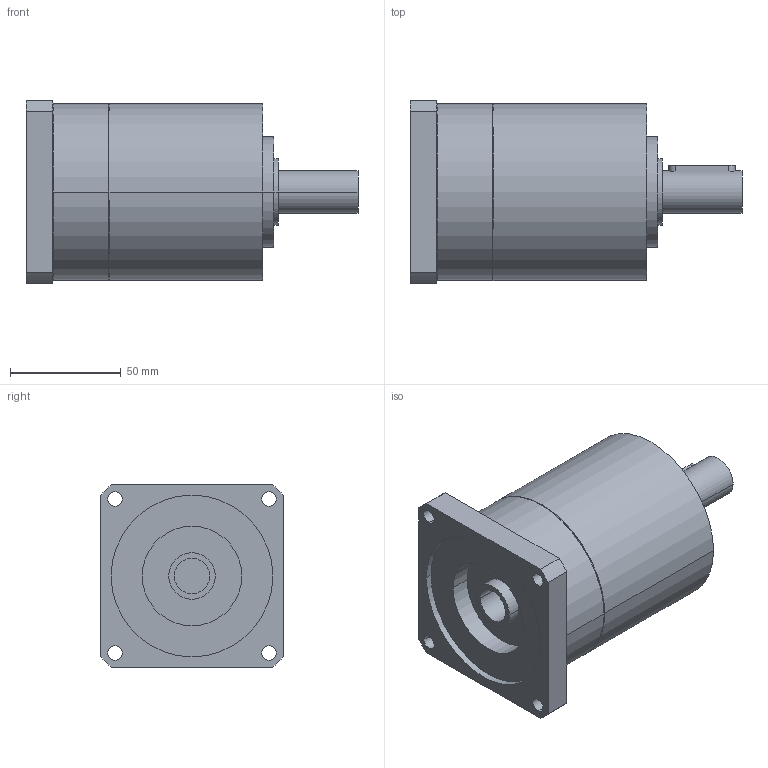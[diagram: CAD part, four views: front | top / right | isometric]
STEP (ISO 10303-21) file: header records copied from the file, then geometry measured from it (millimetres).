
FILE_DESCRIPTION(('CoCreate Modeling STEP Export'),'2;1');
FILE_NAME('GPR100_ig-3-4-5-6_19_B14_16_P05.stp','2014-08-26T10:08:05',(''),(''),'CoCreate Modeling STEP processor for AP214 (Solid Model)','CoCreate Modeling 16.00C 25-Feb-2009 (C) Parametric Technology GmbH','');
FILE_SCHEMA(('AUTOMOTIVE_DESIGN { 1 0 10303 214 1 1 1 1 }'));
Length unit declared in the file: millimetre
Products named in the file (2): GPR100_ig-3-4-5-6_19_B14_16_P05
Assembly tree (1 placements, depth 2):
  GPR100_ig-3-4-5-6_19_B14_16_P05
    GPR100_ig-3-4-5-6_19_B14_16_P05
Bounding box: 150 x 82.5 x 82.5 mm (x, y, z)
Volume: 544735.8 mm3; surface area: 51189.9 mm2
Topology: 1 solids, 1 shells, 70 faces, 187 edges, 131 vertices
Faces by surface type: cylinder 42, plane 22, cone 6
Entity records: 1934 total; most frequent: ORIENTED_EDGE 370, CARTESIAN_POINT 359, DIRECTION 262, EDGE_CURVE 185, VERTEX_POINT 131, AXIS2_PLACEMENT_3D 98, EDGE_LOOP 92, FACE_OUTER_BOUND 70
